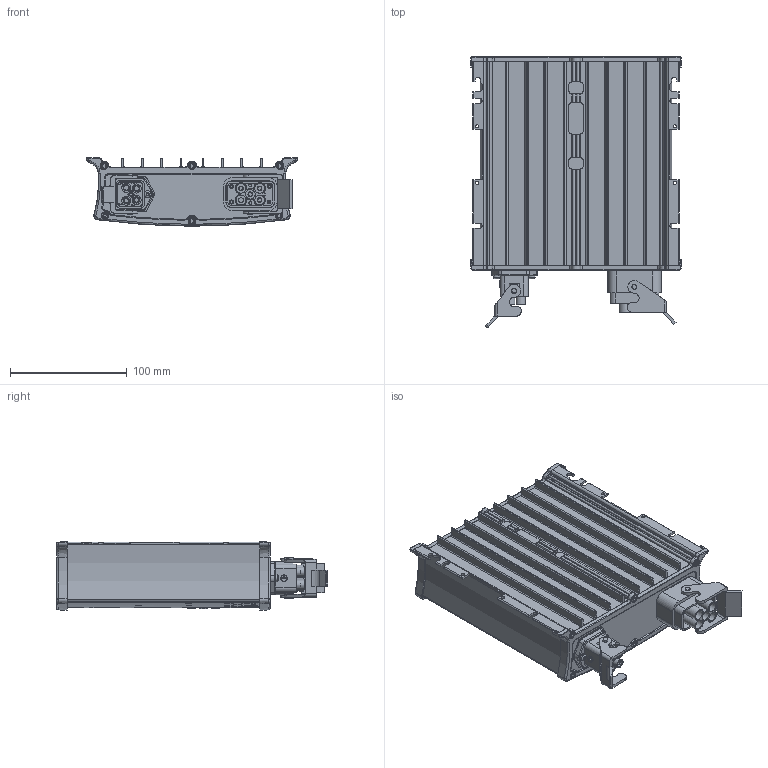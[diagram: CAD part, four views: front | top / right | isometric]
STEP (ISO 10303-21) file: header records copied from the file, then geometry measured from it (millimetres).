
FILE_DESCRIPTION (( 'STEP AP214' ), '1' );
FILE_NAME ('451.03.01.STEP', '2024-07-29T08:23:40', ( '' ), ( '' ), 'SwSTEP 2.0', 'SolidWorks 2024', '' );
FILE_SCHEMA (( 'AUTOMOTIVE_DESIGN' ));
Length unit declared in the file: millimetre
Products named in the file (1): 451.03.01
Bounding box: 180.63 x 232.7 x 58.73 mm (x, y, z)
Volume: 294942.3 mm3; surface area: 371279.1 mm2
Topology: 47 solids, 47 shells, 3589 faces, 9831 edges, 6728 vertices
Faces by surface type: plane 1848, cylinder 1091, torus 386, cone 207, bspline 53, sphere 4
Full cylindrical faces by diameter (mm): 0.116 x1, 0.151 x1, 0.165 x4, 0.195 x4, 0.228 x2, 0.269 x2, 0.452 x1, 0.455 x1, 0.538 x1, 0.57 x1, 0.591 x1, 0.63 x1, 0.8 x4, 1.4 x8, 1.6 x4, 1.75 x4, 2 x6, 2.2 x8, 2.3 x2, 2.4 x4, 2.459 x2, 2.5 x1, 2.6 x8, 2.7 x4, 2.85 x2, 3 x22, 3.05 x1, 3.2 x8, 3.3 x2, 3.5 x10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
Entity records: 181244 total; most frequent: CARTESIAN_POINT 51997, ORIENTED_EDGE 18604, DIRECTION 17996, EDGE_CURVE 9302, AXIS2_PLACEMENT_3D 6645, VERTEX_POINT 6587, VECTOR 4706, LINE 4706
